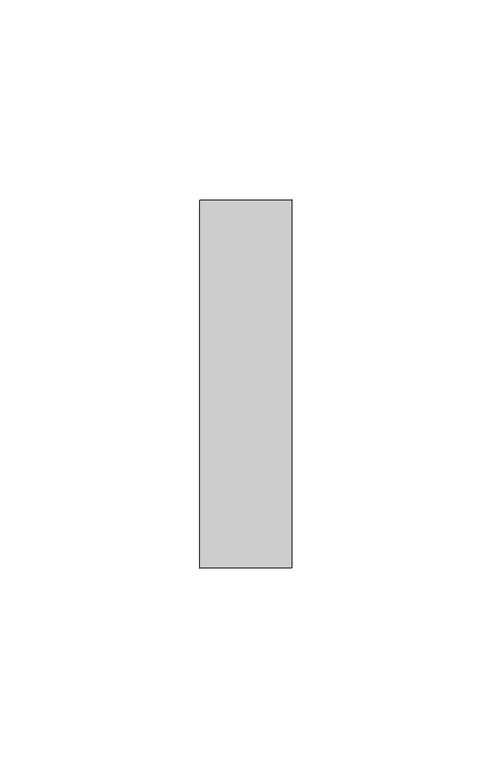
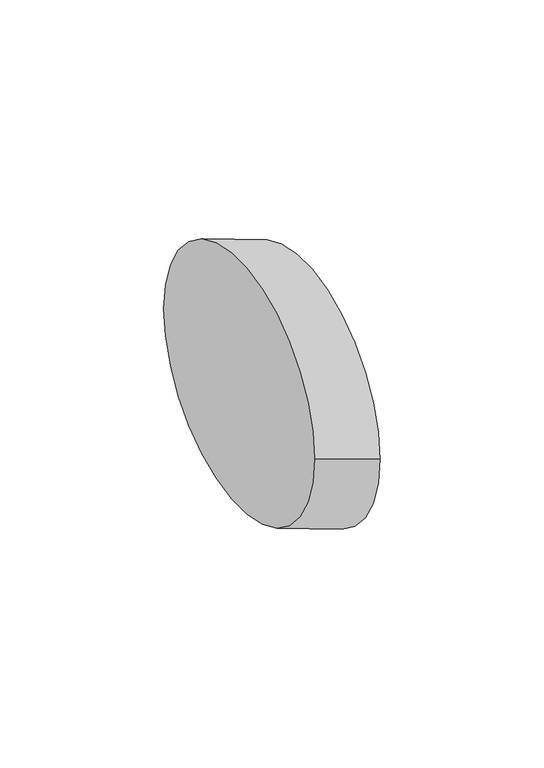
"""IFC4 building model written with IfcOpenShell, lengths in millimetres: pipe fitting geometry, M_Transición - Genérica : Estándar."""

from ifc_helpers import new_model, si_unit, point, frame, origin, place, context, project, spatial, circle_curve, trimmed, source, transform, mapped, element, save
from ifc_brep_helpers import plane_surface, extruded_surface, advanced_brep


def pipe_fitting_bb2194a9(model_context):
    return source(origin(), model_context, "Body", "AdvancedBrep", [
        advanced_brep(
        [(23.01875, -46.0026349, -8.4173012), (23.01875, 46.0723651, -8.4173012), (0.0, -46.0375, 0.0), (0.0, 46.0375, 0.0)],
        [
            (0, 1, circle_curve(frame((23.01875, 0.0348651, -8.4173012), z_axis=(1.0, 0.0, 0.0), x_axis=(0.0, 1.0, 0.0)), 46.0375)),
            (1, 0, circle_curve(frame((23.01875, 0.0348651, -8.4173012), z_axis=(1.0, 0.0, 0.0), x_axis=(0.0, 1.0, 0.0)), 46.0375)),
            (2, 3, circle_curve(frame((0.0, 0.0, 0.0), z_axis=(-1.0, 0.0, 0.0), x_axis=(0.0, 1.0, 0.0)), 46.0375)),
            (3, 2, circle_curve(frame((0.0, 0.0, 0.0), z_axis=(-1.0, 0.0, 0.0), x_axis=(0.0, 1.0, 0.0)), 46.0375)),
            (3, 1),
            (0, 2),
        ],
        [
            plane_surface(frame((23.01875, 0.0348651, -8.4173012), z_axis=(1.0, 0.0, 0.0), x_axis=(0.0, 0.0, -1.0))),
            plane_surface(frame((0.0, 0.0, 0.0), z_axis=(-1.0, 0.0, 0.0), x_axis=(0.0, 0.0, -1.0))),
            extruded_surface(trimmed(circle_curve(frame((0.0, 0.0, 0.0), z_axis=(1.0, 0.0, 0.0), x_axis=(0.0, 1.0, 0.0)), 46.0375), [point((0.0, -46.0375, 0.0))], [point((0.0, 46.0375, 0.0))], True, "CARTESIAN"), (23.01875, 0.0348651, -8.4173012), 24.509488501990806),
            extruded_surface(trimmed(circle_curve(frame((0.0, 0.0, 0.0), z_axis=(1.0, 0.0, 0.0), x_axis=(0.0, 1.0, 0.0)), 46.0375), [point((0.0, 46.0375, 0.0))], [point((0.0, -46.0375, 0.0))], True, "CARTESIAN"), (23.01875, 0.0348651, -8.4173012), 24.509488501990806),
        ],
        [
            (0, [[1, 2]]),
            (1, [[3, 4]]),
            (2, [[-4, 5, -1, 6]]),
            (3, [[-3, -6, -2, -5]]),
        ],
    ),
    ])


if __name__ == "__main__":
    model = new_model("IFC4")
    model_context = context("Model", 3, world=origin())
    ifc_project = project(units=[si_unit("LENGTHUNIT", "METRE", prefix="MILLI")], contexts=[model_context])
    site = spatial("IfcSite", under=ifc_project)
    building = spatial("IfcBuilding", under=site)
    placement = place(None, origin())
    pipe_fitting_shape = pipe_fitting_bb2194a9(model_context)
    element("IfcPipeFitting", 1, ObjectType="M_Transición - Genérica : Estándar", at=placement, inside=building, context=model_context, shape_type="MappedRepresentation", body=[
        mapped(pipe_fitting_shape, transform((0.0, 0.0, 0.0), x_axis=(1.0, 0.0, 0.0), y_axis=(0.0, 1.0, 0.0), z_axis=(0.0, 0.0, 1.0))),
    ])
    save(model, "model.ifc")
